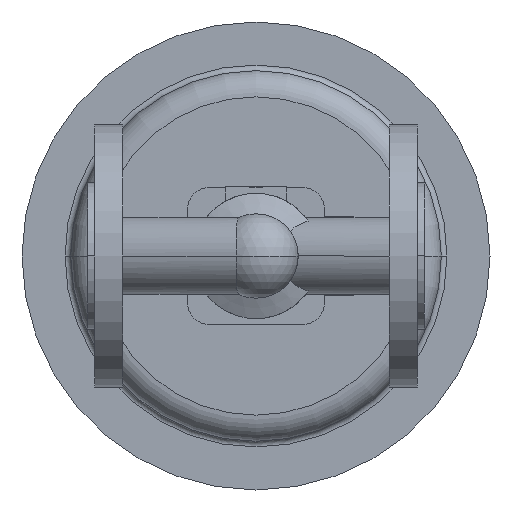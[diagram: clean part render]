
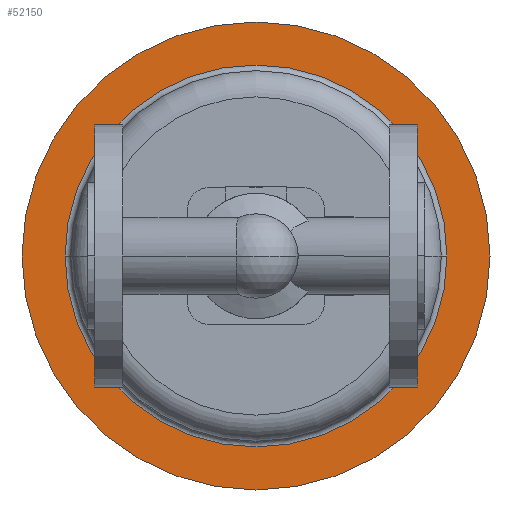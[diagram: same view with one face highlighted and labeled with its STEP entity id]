
A CAD part, front view. The second image highlights one B-rep face of the part: STEP entity #52150.
In plain terms, the highlighted planar face has unit normal (0, -1, 0).
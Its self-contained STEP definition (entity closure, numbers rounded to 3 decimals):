
#51610=CARTESIAN_POINT('',(192.,568.5,0.));
#51620=VERTEX_POINT('',#51610);
#51760=CARTESIAN_POINT('',(-12.,568.5,0.));
#51770=VERTEX_POINT('',#51760);
#51800=CARTESIAN_POINT('',(90.,568.5,0.));
#51810=DIRECTION('',(0.,1.,0.));
#51820=DIRECTION('',(1.,0.,0.));
#51830=AXIS2_PLACEMENT_3D('',#51800,#51810,#51820);
#51840=CIRCLE('',#51830,102.);
#51850=EDGE_CURVE('',#51770,#51620,#51840,.T.);
#51900=CARTESIAN_POINT('',(203.5,568.5,0.));
#51910=DIRECTION('',(0.,-1.,0.));
#51920=DIRECTION('',(-1.,0.,0.));
#51930=AXIS2_PLACEMENT_3D('',#51900,#51910,#51920);
#51940=PLANE('',#51930);
#51950=CARTESIAN_POINT('',(90.,568.5,0.));
#51960=DIRECTION('',(0.,1.,0.));
#51970=DIRECTION('',(1.,0.,0.));
#51980=AXIS2_PLACEMENT_3D('',#51950,#51960,#51970);
#51990=CIRCLE('',#51980,125.);
#52000=CARTESIAN_POINT('',(-35.,568.5,0.));
#52010=VERTEX_POINT('',#52000);
#52020=CARTESIAN_POINT('',(215.,568.5,0.));
#52030=VERTEX_POINT('',#52020);
#52040=EDGE_CURVE('',#52010,#52030,#51990,.T.);
#52050=ORIENTED_EDGE('',*,*,#52040,.F.);
#52060=EDGE_CURVE('',#52030,#52010,#51990,.T.);
#52070=ORIENTED_EDGE('',*,*,#52060,.F.);
#52080=EDGE_LOOP('',(#52070,#52050));
#52090=FACE_OUTER_BOUND('',#52080,.T.);
#52100=EDGE_CURVE('',#51620,#51770,#51840,.T.);
#52110=ORIENTED_EDGE('',*,*,#52100,.T.);
#52120=ORIENTED_EDGE('',*,*,#51850,.T.);
#52130=EDGE_LOOP('',(#52120,#52110));
#52140=FACE_BOUND('',#52130,.T.);
#52150=ADVANCED_FACE('',(#52090,#52140),#51940,.T.);
